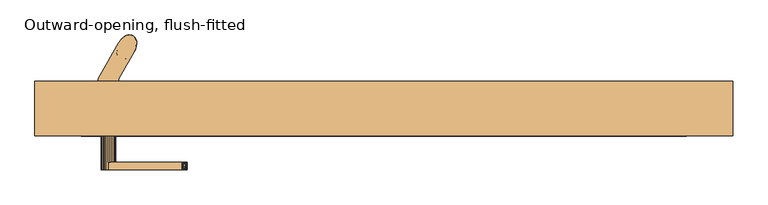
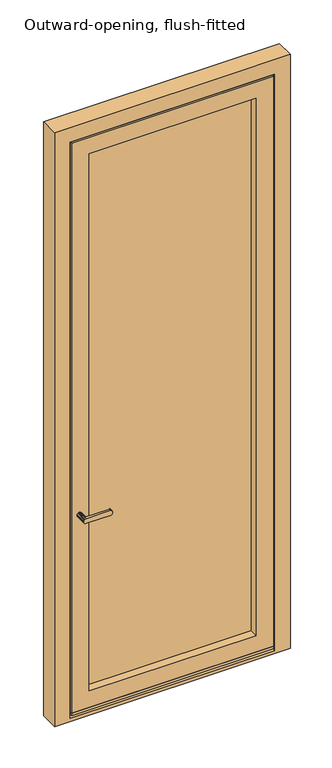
"""IFC4 building model written with IfcOpenShell, lengths in millimetres: door geometry, Outward-opening, flush-fitted."""

from ifc_helpers import new_model, si_unit, frame, origin, place, context, project, spatial, polyline, outline, extrude, faceted_brep, source, transform, mapped, element, save


def outward_opening_flush_fitted_a68b9a5d(model_context):
    return source(origin(), model_context, "Body", "SolidModel", [
        faceted_brep([(166.2287431, 669.5957857, 3103.5), (164.3389959, 672.5301259, 3103.5), (161.7797595, 674.6325784, 3103.5), (158.6793647, 675.7977178, 3103.5), (155.1932781, 675.9671188, 3103.5), (151.4963068, 675.1322872, 3103.5), (147.7738322, 673.3350848, 3103.5), (144.212515, 670.6656309, 3103.5), (140.9909342, 667.257783, 3103.5), (138.2706335, 663.2824248, 3103.5), (136.1880202, 658.9388975, 3103.5), (134.847525, 654.4450036, 3103.5), (134.3163661, 650.0260857, 3103.5), (134.6211779, 645.9037268, 3103.5), (135.7466761, 642.2846393, 3103.5), (137.6364232, 639.3502991, 3103.5), (140.1956596, 637.2478466, 3103.5), (143.2960545, 636.0827073, 3103.5), (146.7821411, 635.9133062, 3103.5), (150.4791124, 636.7481378, 3103.5), (154.2015869, 638.5453402, 3103.5), (157.7629042, 641.2147941, 3103.5), (160.9844849, 644.622642, 3103.5), (163.7047856, 648.5980002, 3103.5), (165.787399, 652.9415275, 3103.5), (167.1278941, 657.4354214, 3103.5), (167.6590531, 661.8543393, 3103.5), (167.3542412, 665.9766982, 3103.5), (143.2960545, 636.0827073, 213.5), (140.1956596, 637.2478466, 213.5), (137.6364232, 639.3502991, 213.5), (135.7466761, 642.2846393, 213.5), (134.6211779, 645.9037268, 213.5), (134.3163661, 650.0260857, 213.5), (134.847525, 654.4450036, 213.5), (136.1880202, 658.9388975, 213.5), (138.2706335, 663.2824248, 213.5), (140.9909342, 667.257783, 213.5), (144.212515, 670.6656309, 213.5), (147.7738322, 673.3350848, 213.5), (151.4963068, 675.1322872, 213.5), (155.1932781, 675.9671188, 213.5), (158.6793647, 675.7977178, 213.5), (161.7797595, 674.6325784, 213.5), (164.3389959, 672.5301259, 213.5), (166.2287431, 669.5957857, 213.5), (167.3542412, 665.9766982, 213.5), (167.6590531, 661.8543393, 213.5), (167.1278941, 657.4354214, 213.5), (165.787399, 652.9415275, 213.5), (163.7047856, 648.5980002, 213.5), (160.9844849, 644.622642, 213.5), (157.7629042, 641.2147941, 213.5), (154.2015869, 638.5453402, 213.5), (150.4791124, 636.7481378, 213.5), (146.7821411, 635.9133062, 213.5), (161.5505327, 674.7609343, 3039.7612202), (166.8914925, 667.8611962, 306.3237695), (163.7047856, 648.5980002, 304.783489), (153.359707, 675.6737836, 3010.676228), (153.3597056, 675.6737832, 297.4293988), (160.2880417, 675.3371113, 368.0172447), (148.3270491, 673.6633417, 369.3240477), (154.7588212, 675.9198052, 446.6944318), (163.1357621, 673.6929778, 2948.98274), (167.6667239, 662.4975723, 2947.6759605), (166.4102335, 669.1834463, 2875.4794892), (160.6776836, 675.18144, 2387.972511), (148.9017358, 673.9813242, 2433.366327), (160.6178636, 675.2065607, 2478.1094389), (163.7047856, 648.5980002, 3012.216511), (138.2706335, 663.2824248, 3012.2165083), (138.2706335, 663.2824248, 304.7834861), (150.8898033, 674.90456, 2922.0327645), (163.7047856, 648.5980002, 396.066978), (167.4602757, 665.3375828, 394.9672499), (162.0055327, 674.4982397, 277.2387736), (151.4561806, 675.1179974, 1435.6433105), (138.2706335, 663.2824248, 1400.1853641), (138.2706335, 663.2824248, 1479.816978), (138.2706335, 663.2824248, 1491.4688502), (159.9396675, 675.4609039, 526.5775533), (164.8081191, 671.9617113, 459.8390978), (149.6664737, 674.3686784, 2789.8337304), (159.5116475, 675.5941609, 2731.5722903), (148.7394891, 673.8939051, 2701.4632106), (166.8914918, 667.8611986, 3019.5705949), (138.2706335, 663.2824248, 943.7679168), (149.4014936, 674.2390529, 991.9541054), (150.151651, 674.5934845, 898.1262183), (138.2706335, 663.2824248, 2920.9330166), (138.2706335, 663.2824248, 2746.1339542), (138.2706335, 663.2824248, 2829.649533), (138.2706335, 663.2824248, 2833.5334854), (165.4334472, 671.0659174, 753.748835), (167.6399826, 663.5037097, 806.8427277), (167.6350242, 661.2518328, 715.5592395), (162.242194, 674.3485788, 2283.8905959), (164.5130902, 672.3281065, 2186.2171541), (150.2373078, 674.6314948, 2242.6546305), (150.8405944, 674.8849811, 1613.8704529), (162.8658555, 673.9071638, 1569.1585234), (151.2516076, 675.0434335, 1517.9321883), (161.0807139, 675.0001544, 2567.4509478), (149.4657023, 674.2709086, 2612.1217017), (161.5316125, 674.771178, 2656.7924568), (162.8920938, 673.8869902, 938.4578574), (161.7797596, 674.6325784, 1035.0514496), (167.6658448, 662.2320884, 1881.8538044), (163.7047856, 648.5980002, 1926.524533), (163.7047856, 648.5980002, 1852.7188463), (163.7047856, 648.5980002, 1837.183022), (150.0919155, 674.5666791, 1085.9473652), (152.7306536, 675.517869, 1168.8726905), (162.9683453, 673.8275832, 1125.837811), (163.0582315, 673.7560369, 1300.8775569), (167.6579167, 663.0537925, 1256.4632408), (162.9145992, 673.8695777, 1212.7139165), (162.8658556, 673.9071638, 1658.5823811), (162.242194, 674.3485788, 1747.8415416), (167.6457586, 663.3830403, 1705.6035919), (167.6667916, 662.4091556, 2149.8783316), (163.7047856, 648.5980002, 2194.5490659), (163.7047856, 648.5980002, 2120.7433801), (163.7047856, 648.5980002, 2105.2075549), (149.1043514, 674.0879095, 1899.8226875), (148.892015, 673.9761385, 1808.0481216), (138.2706335, 663.2824248, 1852.7188509), (167.6635215, 662.8128215, 1527.5583067), (163.7047856, 648.5980002, 1569.158489), (163.7047856, 648.5980002, 1491.4688485), (163.7047856, 648.5980002, 1479.816978), (161.3249434, 674.879689, 1844.8045559), (167.6001313, 664.1083165, 1797.4267243), (148.8951268, 673.9777992, 2522.7801928), (158.643048, 675.8050118, 2868.0801076), (163.0013131, 673.8015344, 2802.6217509), (161.9622567, 674.5246154, 1475.3268617), (138.2706335, 663.2824248, 852.4844251), (163.7047856, 648.5980002, 1301.133956), (163.7047856, 648.5980002, 1217.6183797), (163.7047856, 648.5980002, 1211.7924451), (149.3907955, 674.2337175, 1718.7066128), (138.2706335, 663.2824248, 1763.3773394), (167.6424046, 663.4549077, 2418.8738478), (167.6411091, 663.481305, 2327.1169999), (150.6175468, 674.7941617, 1263.2601666), (138.2706335, 663.2824248, 1217.6183807), (138.2706335, 663.2824248, 1301.133956), (138.2706335, 663.2824248, 1308.9018724), (163.7047856, 648.5980002, 2373.2320879), (138.2706335, 663.2824248, 1582.7523363), (138.2706335, 663.2824248, 1658.5), (138.2706335, 663.2824248, 1674.035828), (167.6177046, 663.8747832, 1077.7802226), (167.6548964, 663.1502613, 1167.1147796), (167.6416963, 663.4694262, 1349.0545448), (167.5889892, 664.240021, 2510.1573349), (163.7047856, 648.5980002, 2464.5155769), (148.0975381, 673.5298181, 2076.0726483), (149.7553179, 674.4110552, 1991.6458261), (138.2706335, 663.2824248, 2031.4018738), (164.2771184, 672.5995764, 682.8588012), (163.7047856, 648.5980002, 578.633956), (167.5907742, 664.219614, 532.9922607), (167.654249, 663.1692553, 621.3637247), (167.606449, 664.0285127, 2607.3749737), (162.0238637, 674.4869765, 1390.4755053), (167.5716901, 664.4263296, 1441.7482187), (167.6141573, 660.907579, 460.8624964), (163.7047856, 648.5980002, 487.350467), (148.6692217, 673.8554716, 511.4648929), (145.0393531, 671.3765494, 453.7451278), (162.7289495, 674.0102415, 603.806908), (163.7047856, 648.5980002, 669.9174451), (161.7797594, 674.6325785, 841.8642654), (167.6627677, 662.8535427, 898.126215), (151.6352708, 675.1809238, 659.1547405), (146.5604194, 672.5368909, 806.8427306), (148.3650685, 673.6850987, 2856.6324745), (152.3201144, 675.4012707, 583.1880996), (138.2706335, 663.2824248, 2656.7924427), (138.2706335, 663.2824248, 2738.366044), (167.5793103, 664.3466495, 2699.940621), (167.3048978, 658.3587256, 2866.1656853), (167.6644733, 662.7539259, 2807.3986574), (138.2706335, 663.2824248, 2567.4509313), (138.2706335, 663.2824248, 2647.0825549), (138.2706335, 663.2824248, 2388.767914), (138.2706335, 663.2824248, 2464.5155769), (138.2706335, 663.2824248, 2478.1094254), (149.7487472, 674.4079398, 2334.4675158), (138.2706335, 663.2824248, 2210.0848967), (138.2706335, 663.2824248, 2283.8905769), (138.2706335, 663.2824248, 2299.4264025), (163.7047856, 648.5980002, 2388.7679138), (163.7047856, 648.5980002, 2555.7990659), (163.7047856, 648.5980002, 2478.1094232), (163.7047856, 648.5980002, 2738.366044), (163.7047856, 648.5980002, 2656.7924475), (163.7047856, 648.5980002, 2647.0825549), (167.6079117, 664.0094265, 2235.3144708), (163.7047856, 648.5980002, 2283.8905769), (164.97877, 671.7345832, 2121.0154935), (138.2706335, 663.2824248, 578.6339612), (146.315966, 672.3627096, 2165.4141571), (138.2706335, 663.2824248, 2120.7433852), (138.2706335, 663.2824248, 2194.5490659), (166.7270112, 668.3594205, 2060.5368228), (163.7047856, 648.5980002, 2031.4018707), (163.7047856, 648.5980002, 2015.866044), (167.6288113, 663.7039869, 1971.1953135), (159.0289094, 675.7208451, 2041.9850456), (138.2706335, 663.2824248, 2555.7990659), (163.7047856, 648.5980002, 2210.0848951), (163.7047856, 648.5980002, 2299.4264044), (163.7047856, 648.5980002, 1033.1094231), (167.6548734, 663.1509445, 988.4387133), (163.7047856, 648.5980002, 2567.4509325), (138.2706335, 663.2824248, 396.0669778), (163.7047856, 648.5980002, 2829.649533), (163.7047856, 648.5980002, 2920.933022), (163.7047856, 648.5980002, 2746.1339569), (163.7047856, 648.5980002, 761.2009341), (157.3649733, 675.9831179, 2138.6482318), (145.791106, 671.9730561, 719.6075288), (138.2706335, 663.2824248, 669.9174529), (155.525878, 675.9937381, 754.3114731), (138.2706335, 663.2824248, 761.200939), (163.7047856, 648.5980002, 852.4844231), (163.7047856, 648.5980002, 943.7679121), (138.2706335, 663.2824248, 1035.0514085), (138.2706335, 663.2824248, 1126.3348946), (138.2706335, 663.2824248, 1211.7924451), (149.2249952, 674.1500152, 1354.5436536), (138.2706335, 663.2824248, 1390.475467), (163.7047856, 648.5980002, 1122.4509341), (163.7047856, 648.5980002, 1035.0514006), (138.2706335, 663.2824248, 1122.4509341), (138.2706335, 663.2824248, 1033.1094231), (163.7047856, 648.5980002, 1126.3348901), (163.7047856, 648.5980002, 1400.1853589), (163.7047856, 648.5980002, 1390.475467), (167.6552285, 663.1403125, 1613.8292772), (163.7047856, 648.5980002, 1308.9018693), (163.7047856, 648.5980002, 1658.5), (163.7047856, 648.5980002, 1582.752338), (163.7047856, 648.5980002, 1763.377337), (163.7047856, 648.5980002, 1747.841511), (138.2706335, 663.2824248, 1569.158489), (163.7047856, 648.5980002, 1942.0603613), (138.2706335, 663.2824248, 1747.841511), (161.3025915, 674.891059, 1942.0603856), (138.2706335, 663.2824248, 1837.183022), (138.2706335, 663.2824248, 1942.0603623), (138.2706335, 663.2824248, 2105.2075549), (163.7047856, 648.5980002, 1674.0358276), (138.2706335, 663.2824248, 2015.866044), (138.2706335, 663.2824248, 1926.524533), (138.2706335, 663.2824248, 487.3504695), (138.2706335, 663.2824248, 2373.2320879), (163.7047856, 648.5980002, 2833.5334917), (140.4248864, 637.1194907, 3039.7612202), (135.0839266, 644.0192288, 306.3237695), (148.6157121, 636.2066414, 3010.676228), (148.6157136, 636.2066418, 297.4293988), (141.6873774, 636.5433137, 368.0172447), (153.64837, 638.2170833, 369.3240477), (147.2165979, 635.9606198, 446.6944318), (138.839657, 638.1874472, 2948.98274), (134.3086953, 649.3828527, 2947.6759605), (135.5651856, 642.6969787, 2875.4794892), (141.2977356, 636.698985, 2387.972511), (153.0736833, 637.8991008, 2433.366327), (141.3575556, 636.6738643, 2478.1094389), (151.0856159, 636.975865, 2922.0327645), (134.5151434, 646.5428422, 394.9672499), (139.9698864, 637.3821853, 277.2387736), (150.5192386, 636.7624276, 1435.6433105), (142.0357516, 636.4195211, 526.5775533), (137.1673001, 639.9187137, 459.8390978), (152.3089454, 637.5117466, 2789.8337304), (142.4637716, 636.2862641, 2731.5722903), (153.23593, 637.9865199, 2701.4632106), (135.0839274, 644.0192264, 3019.5705949), (152.5739256, 637.6413721, 991.9541054), (151.8237681, 637.2869405, 898.1262183), (136.5419719, 640.8145076, 753.748835), (134.3354365, 648.3767153, 806.8427277), (134.3403949, 650.6285922, 715.5592395), (139.7332252, 637.5318462, 2283.8905959), (137.4623289, 639.5523186, 2186.2171541), (151.7381113, 637.2489302, 2242.6546305), (151.1348247, 636.9954439, 1613.8704529), (139.1095636, 637.9732612, 1569.1585234), (150.7238115, 636.8369915, 1517.9321883), (134.3689701, 647.8519123, 2607.3749737), (140.8947052, 636.8802706, 2567.4509478), (140.4438066, 637.109247, 2656.7924568), (139.0833253, 637.9934348, 938.4578574), (140.1956596, 637.2478466, 1035.0514496), (134.3095744, 649.6483366, 1881.8538044), (151.8835036, 637.3137459, 1085.9473652), (149.2447656, 636.362556, 1168.8726905), (139.0070739, 638.0528418, 1125.837811), (138.9171876, 638.1243881, 1300.8775569), (134.3175024, 648.8266325, 1256.4632408), (139.0608199, 638.0108473, 1212.7139165), (139.1095635, 637.9732612, 1658.5823811), (139.7332251, 637.5318462, 1747.8415416), (134.3296605, 648.4973847, 1705.6035919), (134.3086276, 649.4712695, 2149.8783316), (152.8710677, 637.7925155, 1899.8226875), (153.0834041, 637.9042865, 1808.0481216), (152.5097169, 637.6095164, 2612.1217017), (134.3118976, 649.0676035, 1527.5583067), (140.6504758, 637.000736, 1844.8045559), (134.3752878, 647.7721085, 1797.4267243), (153.0802924, 637.9026258, 2522.7801928), (143.3323712, 636.0754132, 2868.0801076), (138.9741061, 638.0788906, 2802.6217509), (140.0131624, 637.3558096, 1475.3268617), (152.5846237, 637.6467075, 1718.7066128), (134.3330145, 648.4255173, 2418.8738478), (134.3343101, 648.39912, 2327.1169999), (151.3578723, 637.0862633, 1263.2601666), (134.3577146, 648.0056418, 1077.7802226), (134.3205228, 648.7301637, 1167.1147796), (134.3337228, 648.4109988, 1349.0545448), (134.38643, 647.640404, 2510.1573349), (153.8778811, 638.3506069, 2076.0726483), (152.2201012, 637.4693698, 1991.6458261), (137.6983007, 639.2808486, 682.8588012), (134.3846449, 647.660811, 532.9922607), (134.3211702, 648.7111697, 621.3637247), (139.9515554, 637.3934485, 1390.4755053), (134.4037291, 647.4540954, 1441.7482187), (134.3612619, 650.972846, 460.8624964), (153.3061975, 638.0249534, 511.4648929), (156.936066, 640.5038756, 453.7451278), (139.2464696, 637.8701835, 603.806908), (140.1956597, 637.2478465, 841.8642654), (134.3126514, 649.0268823, 898.126215), (150.3401483, 636.6995012, 659.1547405), (155.4149997, 639.3435341, 806.8427306), (153.6103506, 638.1953263, 2856.6324745), (149.6553047, 636.4791543, 583.1880996), (134.3961088, 647.5337755, 2699.940621), (134.6705214, 653.5216994, 2866.1656853), (134.3109458, 649.1264991, 2807.3986574), (152.2266719, 637.4724852, 2334.4675158), (134.3675074, 647.8709985, 2235.3144708), (136.9966491, 640.1458418, 2121.0154935), (155.6594532, 639.5177154, 2165.4141571), (135.2484079, 643.5210045, 2060.5368228), (134.3466078, 648.1764381, 1971.1953135), (142.9465097, 636.1595799, 2041.9850456), (134.3205458, 648.7294805, 988.4387133), (144.6104458, 635.8973071, 2138.6482318), (156.1843131, 639.9073689, 719.6075288), (146.4495412, 635.8866869, 754.3114731), (152.750424, 637.7304098, 1354.5436536), (134.3201906, 648.7401125, 1613.8292772), (140.6728277, 636.989366, 1942.0603856)], [[[0, 1, 2, 3, 4, 5, 6, 7, 8, 9, 10, 11, 12, 13, 14, 15, 16, 17, 18, 19, 20, 21, 22, 23, 24, 25, 26, 27]], [[28, 29, 30, 31, 32, 33, 34, 35, 36, 37, 38, 39, 40, 41, 42, 43, 44, 45, 46, 47, 48, 49, 50, 51, 52, 53, 54, 55]], [[2, 1, 56]], [[57, 58, 48]], [[59, 7, 6]], [[5, 4, 59]], [[38, 60, 39]], [[61, 62, 63]], [[4, 3, 56]], [[64, 65, 66]], [[40, 60, 41]], [[67, 68, 69]], [[24, 23, 70]], [[58, 50, 49]], [[71, 9, 8]], [[37, 36, 72]], [[73, 59, 64]], [[60, 40, 39]], [[74, 58, 75]], [[45, 76, 57]], [[77, 78, 79, 80]], [[71, 8, 7]], [[63, 81, 82]], [[83, 84, 85]], [[25, 86, 26]], [[24, 70, 25]], [[87, 88, 89]], [[75, 58, 57]], [[72, 62, 60]], [[5, 59, 6]], [[90, 71, 73]], [[70, 65, 86]], [[42, 41, 76]], [[46, 57, 47]], [[83, 91, 92, 93]], [[94, 95, 96]], [[43, 42, 76]], [[97, 98, 99]], [[86, 27, 26]], [[100, 101, 102]], [[4, 56, 59]], [[64, 56, 86]], [[103, 104, 105]], [[46, 45, 57]], [[58, 49, 48]], [[76, 41, 60]], [[59, 71, 7]], [[45, 44, 76]], [[56, 1, 0]], [[75, 57, 61]], [[61, 76, 60]], [[27, 86, 0]], [[47, 57, 48]], [[37, 72, 38]], [[106, 88, 107]], [[0, 86, 56]], [[38, 72, 60]], [[73, 71, 59]], [[64, 86, 65]], [[61, 60, 62]], [[25, 70, 86]], [[108, 109, 110, 111]], [[112, 113, 114]], [[115, 116, 117]], [[118, 119, 120]], [[121, 122, 123, 124]], [[125, 126, 127]], [[105, 85, 84]], [[128, 129, 130, 131]], [[132, 133, 119]], [[134, 103, 69]], [[135, 66, 136]], [[137, 101, 128]], [[89, 138, 87]], [[116, 139, 140, 141]], [[126, 142, 143]], [[144, 145, 67]], [[146, 147, 148, 149]], [[150, 145, 144]], [[133, 120, 119]], [[100, 151, 152, 153]], [[154, 114, 155]], [[116, 115, 156]], [[144, 157, 158]], [[159, 160, 161]], [[96, 162, 94]], [[163, 164, 165]], [[68, 134, 69]], [[103, 166, 157]], [[100, 142, 118]], [[167, 168, 156]], [[169, 170, 74]], [[171, 63, 172]], [[163, 170, 164]], [[165, 164, 173]], [[174, 165, 96]], [[164, 169, 82]], [[82, 81, 164]], [[175, 176, 95]], [[177, 162, 173]], [[175, 178, 89]], [[179, 93, 90]], [[180, 177, 173]], [[85, 181, 182, 91]], [[105, 183, 166]], [[66, 184, 185]], [[91, 83, 85]], [[179, 135, 83]], [[135, 136, 83]], [[186, 104, 134]], [[104, 186, 187, 181]], [[103, 134, 104]], [[85, 104, 181]], [[104, 85, 105]], [[68, 188, 189, 190]], [[134, 68, 190]], [[188, 68, 191]], [[67, 191, 68]], [[99, 192, 193, 194]], [[191, 99, 194]], [[67, 97, 191]], [[144, 158, 195, 150]], [[166, 196, 157]], [[157, 196, 197, 158]], [[67, 69, 144]], [[183, 198, 199, 200]], [[166, 183, 200]], [[157, 144, 69]], [[97, 67, 145]], [[97, 145, 201]], [[145, 202, 201]], [[97, 99, 191]], [[121, 203, 98]], [[180, 204, 177]], [[205, 206, 207, 192]], [[208, 124, 209, 210]], [[122, 121, 201]], [[208, 211, 212]], [[134, 190, 213, 186]], [[69, 103, 157]], [[103, 105, 166]], [[201, 202, 214, 122]], [[145, 150, 215, 202]], [[201, 121, 98]], [[216, 217, 154]], [[155, 116, 141]], [[121, 124, 208]], [[73, 64, 135]], [[136, 183, 84]], [[166, 200, 218, 196]], [[171, 81, 63]], [[219, 62, 72]], [[75, 61, 82]], [[62, 172, 63]], [[171, 180, 81]], [[185, 184, 220]], [[221, 65, 70]], [[198, 183, 185]], [[65, 184, 66]], [[185, 136, 66]], [[136, 185, 183]], [[185, 220, 222, 198]], [[96, 223, 174]], [[162, 165, 173]], [[174, 163, 165]], [[192, 99, 205]], [[224, 99, 98]], [[63, 82, 61]], [[169, 75, 82]], [[225, 177, 226]], [[81, 173, 164]], [[177, 227, 162]], [[173, 81, 180]], [[226, 177, 204]], [[138, 178, 228]], [[227, 177, 225]], [[175, 89, 106]], [[225, 228, 178]], [[88, 106, 89]], [[229, 223, 95]], [[216, 230, 217]], [[176, 229, 95]], [[229, 176, 230]], [[94, 227, 175]], [[107, 88, 112]], [[88, 231, 112]], [[107, 112, 114]], [[113, 232, 233, 147]], [[117, 146, 115]], [[232, 113, 112]], [[234, 149, 235, 78]], [[236, 154, 155]], [[154, 236, 237, 216]], [[106, 107, 217]], [[154, 217, 107]], [[106, 217, 176]], [[230, 176, 217]], [[175, 106, 176]], [[112, 231, 238, 232]], [[88, 87, 239, 231]], [[117, 155, 114]], [[155, 141, 240, 236]], [[156, 139, 116]], [[117, 116, 155]], [[168, 131, 241, 242]], [[156, 168, 242]], [[128, 243, 129]], [[102, 101, 137]], [[115, 167, 156]], [[234, 167, 115]], [[113, 117, 114]], [[114, 154, 107]], [[156, 242, 244, 139]], [[245, 243, 120]], [[243, 245, 246, 129]], [[243, 101, 118]], [[133, 111, 247, 248]], [[120, 133, 248]], [[243, 118, 120]], [[101, 100, 118]], [[142, 119, 118]], [[100, 102, 151]], [[102, 80, 249, 151]], [[211, 210, 250, 109]], [[111, 133, 108]], [[132, 108, 133]], [[126, 125, 132]], [[142, 153, 251, 143]], [[210, 211, 208]], [[132, 252, 108]], [[126, 143, 253, 127]], [[153, 142, 100]], [[132, 119, 126]], [[149, 234, 146]], [[167, 137, 168]], [[78, 77, 234]], [[142, 126, 119]], [[252, 132, 125]], [[252, 125, 160]], [[125, 254, 160]], [[146, 234, 115]], [[77, 137, 167]], [[212, 211, 252]], [[159, 161, 255, 206]], [[113, 146, 117]], [[146, 113, 147]], [[243, 128, 101]], [[168, 128, 131]], [[120, 248, 256, 245]], [[160, 254, 257, 161]], [[125, 127, 258, 254]], [[259, 204, 171]], [[180, 171, 204]], [[259, 171, 172]], [[108, 211, 109]], [[252, 211, 108]], [[159, 224, 212]], [[160, 159, 212]], [[224, 159, 205]], [[160, 212, 252]], [[203, 208, 212]], [[128, 168, 137]], [[102, 137, 77]], [[80, 102, 77]], [[234, 77, 167]], [[191, 194, 260, 188]], [[66, 135, 64]], [[179, 73, 135]], [[73, 179, 90]], [[179, 83, 93]], [[223, 96, 95]], [[162, 96, 165]], [[75, 169, 74]], [[170, 169, 164]], [[95, 94, 175]], [[94, 162, 227]], [[201, 98, 97]], [[224, 98, 203]], [[224, 203, 212]], [[208, 203, 121]], [[227, 178, 175]], [[178, 138, 89]], [[206, 205, 159]], [[224, 205, 99]], [[172, 219, 259]], [[219, 172, 62]], [[184, 221, 261, 220]], [[221, 184, 65]], [[43, 76, 44]], [[57, 76, 61]], [[2, 56, 3]], [[59, 56, 64]], [[105, 84, 183]], [[136, 84, 83]], [[227, 225, 178]], [[228, 225, 226]], [[16, 15, 262]], [[263, 72, 34]], [[264, 21, 20]], [[19, 18, 264]], [[52, 265, 53]], [[266, 267, 268]], [[18, 17, 262]], [[269, 270, 271]], [[54, 265, 55]], [[272, 273, 274]], [[10, 9, 71]], [[72, 36, 35]], [[70, 23, 22]], [[51, 50, 58]], [[275, 264, 269]], [[265, 54, 53]], [[219, 72, 276]], [[31, 277, 263]], [[278, 241, 131, 130]], [[70, 22, 21]], [[268, 279, 280]], [[281, 282, 283]], [[11, 284, 12]], [[10, 71, 11]], [[230, 285, 286]], [[276, 72, 263]], [[58, 267, 265]], [[19, 264, 20]], [[221, 70, 275]], [[71, 270, 284]], [[28, 55, 277]], [[32, 263, 33]], [[281, 222, 220, 261]], [[287, 288, 289]], [[29, 28, 277]], [[290, 291, 292]], [[284, 13, 12]], [[293, 294, 295]], [[18, 262, 264]], [[269, 262, 284]], [[296, 297, 298]], [[32, 31, 263]], [[72, 35, 34]], [[277, 55, 265]], [[264, 70, 21]], [[31, 30, 277]], [[262, 15, 14]], [[276, 263, 266]], [[266, 277, 265]], [[13, 284, 14]], [[33, 263, 34]], [[51, 58, 52]], [[299, 285, 300]], [[14, 284, 262]], [[52, 58, 265]], [[275, 70, 264]], [[269, 284, 270]], [[266, 265, 267]], [[11, 71, 284]], [[301, 258, 127, 253]], [[302, 303, 304]], [[305, 306, 307]], [[308, 309, 310]], [[311, 207, 206, 255]], [[312, 313, 110]], [[298, 297, 314]], [[315, 249, 80, 79]], [[316, 317, 309]], [[318, 273, 197]], [[319, 271, 320]], [[321, 294, 315]], [[286, 229, 230]], [[306, 148, 147, 233]], [[313, 322, 247]], [[323, 324, 272]], [[325, 140, 139, 244]], [[260, 324, 323]], [[317, 310, 309]], [[293, 246, 245, 256]], [[326, 304, 327]], [[306, 305, 328]], [[323, 329, 189]], [[330, 331, 209]], [[289, 332, 287]], [[204, 333, 334]], [[273, 318, 274]], [[297, 296, 329]], [[293, 322, 308]], [[335, 336, 328]], [[337, 259, 219]], [[338, 268, 339]], [[204, 259, 333]], [[334, 333, 340]], [[226, 334, 289]], [[333, 337, 280]], [[280, 279, 333]], [[341, 342, 288]], [[343, 332, 340]], [[341, 344, 286]], [[345, 261, 221]], [[346, 343, 340]], [[283, 199, 198, 222]], [[298, 347, 296]], [[271, 348, 349]], [[222, 281, 283]], [[345, 319, 281]], [[319, 320, 281]], [[218, 314, 318]], [[314, 218, 200, 199]], [[283, 282, 298]], [[283, 314, 199]], [[314, 283, 298]], [[273, 195, 158, 197]], [[274, 318, 297]], [[195, 273, 350]], [[272, 350, 273]], [[292, 214, 202, 215]], [[350, 292, 215]], [[272, 290, 350]], [[323, 189, 188, 260]], [[296, 213, 329]], [[329, 213, 190, 189]], [[272, 274, 323]], [[347, 182, 181, 187]], [[296, 347, 187]], [[329, 323, 274]], [[290, 272, 324]], [[290, 324, 351]], [[324, 193, 351]], [[290, 292, 350]], [[311, 352, 291]], [[346, 163, 343]], [[353, 123, 122, 214]], [[354, 255, 161, 257]], [[207, 311, 351]], [[354, 355, 356]], [[318, 197, 196, 218]], [[314, 297, 318]], [[329, 274, 297]], [[351, 193, 192, 207]], [[324, 260, 194, 193]], [[351, 311, 291]], [[239, 357, 326]], [[327, 306, 233]], [[311, 255, 354]], [[275, 269, 319]], [[320, 347, 282]], [[296, 187, 186, 213]], [[338, 279, 268]], [[74, 267, 58]], [[276, 266, 280]], [[267, 339, 268]], [[338, 346, 279]], [[349, 348, 92]], [[90, 270, 71]], [[182, 347, 349]], [[270, 348, 271]], [[349, 320, 271]], [[320, 349, 347]], [[349, 92, 91, 182]], [[289, 228, 226]], [[332, 334, 340]], [[226, 204, 334]], [[214, 292, 353]], [[358, 292, 291]], [[268, 280, 266]], [[337, 276, 280]], [[359, 343, 174]], [[279, 340, 333]], [[343, 360, 332]], [[340, 279, 346]], [[174, 343, 163]], [[229, 344, 223]], [[360, 343, 359]], [[341, 286, 299]], [[359, 223, 344]], [[285, 299, 286]], [[138, 228, 288]], [[239, 87, 357]], [[342, 138, 288]], [[138, 342, 87]], [[287, 360, 341]], [[300, 285, 302]], [[285, 237, 302]], [[300, 302, 304]], [[303, 240, 141, 140]], [[307, 325, 305]], [[240, 303, 302]], [[361, 244, 242, 241]], [[238, 326, 327]], [[326, 238, 231, 239]], [[299, 300, 357]], [[326, 357, 300]], [[299, 357, 342]], [[87, 342, 357]], [[341, 299, 342]], [[302, 237, 236, 240]], [[285, 230, 216, 237]], [[307, 327, 304]], [[327, 233, 232, 238]], [[328, 148, 306]], [[307, 306, 327]], [[336, 79, 78, 235]], [[328, 336, 235]], [[315, 362, 249]], [[295, 294, 321]], [[305, 335, 328]], [[361, 335, 305]], [[303, 307, 304]], [[304, 326, 300]], [[328, 235, 149, 148]], [[152, 362, 310]], [[362, 152, 151, 249]], [[362, 294, 308]], [[317, 253, 143, 251]], [[310, 317, 251]], [[362, 308, 310]], [[294, 293, 308]], [[322, 309, 308]], [[293, 295, 246]], [[295, 130, 129, 246]], [[355, 257, 254, 258]], [[253, 317, 301]], [[316, 301, 317]], [[313, 312, 316]], [[322, 256, 248, 247]], [[257, 355, 354]], [[316, 363, 301]], [[313, 247, 111, 110]], [[256, 322, 293]], [[316, 309, 313]], [[244, 361, 325]], [[335, 321, 336]], [[241, 278, 361]], [[322, 313, 309]], [[363, 316, 312]], [[363, 312, 331]], [[312, 250, 331]], [[325, 361, 305]], [[278, 321, 335]], [[356, 355, 363]], [[330, 209, 124, 123]], [[303, 325, 307]], [[325, 303, 140]], [[362, 315, 294]], [[336, 315, 79]], [[310, 251, 153, 152]], [[331, 250, 210, 209]], [[312, 110, 109, 250]], [[170, 163, 338]], [[346, 338, 163]], [[170, 338, 339]], [[301, 355, 258]], [[363, 355, 301]], [[330, 358, 356]], [[331, 330, 356]], [[358, 330, 353]], [[331, 356, 363]], [[352, 354, 356]], [[315, 336, 321]], [[295, 321, 278]], [[130, 295, 278]], [[361, 278, 335]], [[350, 215, 150, 195]], [[271, 319, 269]], [[345, 275, 319]], [[275, 345, 221]], [[345, 281, 261]], [[228, 289, 288]], [[332, 289, 334]], [[276, 337, 219]], [[259, 337, 333]], [[288, 287, 341]], [[287, 332, 360]], [[351, 291, 290]], [[358, 291, 352]], [[358, 352, 356]], [[354, 352, 311]], [[360, 344, 341]], [[344, 229, 286]], [[123, 353, 330]], [[358, 353, 292]], [[339, 74, 170]], [[74, 339, 267]], [[348, 90, 93, 92]], [[90, 348, 270]], [[29, 277, 30]], [[263, 277, 266]], [[16, 262, 17]], [[264, 262, 269]], [[298, 282, 347]], [[320, 282, 281]], [[360, 359, 344]], [[223, 359, 174]]]),
        faceted_brep([(1074.0000003, 510.0, 3134.0), (1074.0000003, 518.3, 3134.0), (1074.0000003, 518.3, 167.8651688), (1074.0000003, 510.0, 165.0072496), (76.0, 518.3, 3134.0), (76.0, 518.3, 167.8651688), (55.5, 518.3, 167.8651688), (55.5, 518.3, 3154.5), (1094.5000003, 518.3, 3154.5), (1094.5000003, 518.3, 167.8651688), (1094.5000003, 591.7, 3154.5), (1094.5000003, 591.7, 164.3), (1094.5000003, 532.0, 164.3), (1094.5000003, 532.0, 170.0), (1094.5000003, 524.5, 170.0), (1106.0000003, 599.9993365, 150.0), (1106.0000003, 591.7, 150.0), (1106.0000003, 591.7, 3166.0), (1106.0000003, 599.9993365, 3166.0), (1150.0, 599.9993365, 150.0), (44.0, 599.9993365, 3166.0), (44.0, 599.9993365, 150.0), (0.0, 599.9993365, 150.0), (0.0, 599.9993365, 3210.0), (1150.0, 599.9993365, 3210.0), (76.0, 510.0, 3134.0), (76.0, 510.0, 165.0072496), (44.0, 591.7, 3166.0), (44.0, 591.7, 150.0), (55.5, 591.7, 3154.5), (55.5, 524.5, 170.0), (55.5, 532.0, 170.0), (55.5, 532.0, 164.3), (55.5, 591.7, 164.3), (0.0, 510.0, 3210.0), (1150.0, 510.0, 3210.0), (1150.0, 510.0, 150.0), (0.0, 510.0, 150.0)], [[[0, 1, 2, 3]], [[1, 4, 5, 6, 7, 8, 9, 2]], [[8, 10, 11, 12, 13, 14, 9]], [[15, 16, 17, 18]], [[19, 15, 18, 20, 21, 22, 23, 24]], [[4, 25, 26, 5]], [[20, 27, 28, 21]], [[29, 7, 6, 30, 31, 32, 33]], [[25, 4, 1, 0]], [[27, 20, 18, 17]], [[23, 34, 35, 24]], [[29, 10, 8, 7]], [[19, 24, 35, 36]], [[34, 23, 22, 37]], [[37, 36, 35, 34], [3, 26, 25, 0]], [[19, 36, 37, 22, 21, 28, 16, 15]], [[14, 30, 6, 5, 26, 3, 2, 9]], [[16, 28, 27, 17], [33, 11, 10, 29]], [[11, 33, 32, 12]], [[12, 32, 31, 13]], [[13, 31, 30, 14]]]),
        extrude(outline(polyline([(153.0, 589.0), (997.0000003, 589.0), (997.0000003, 551.0), (153.0, 551.0), (153.0, 589.0)])), frame((0.0, 0.0, 260.0), z_axis=(0.0, 0.0, 1.0), x_axis=(1.0, 0.0, 0.0)), (0.0, 0.0, 1.0), 2797.0),
        faceted_brep([(71.5, 518.3, 3138.5), (71.5, 591.7, 3138.5), (71.5, 591.7, 178.5), (71.5, 518.3, 178.5), (51.0, 591.7, 3159.0), (51.0, 591.7, 158.0), (1099.0000003, 591.7, 158.0), (1099.0000003, 591.7, 3159.0), (1078.5000003, 591.7, 3138.5), (1078.5000003, 591.7, 178.5), (1078.5000003, 518.3, 178.5), (1078.5000003, 518.3, 3138.5), (1067.0000003, 518.3, 3127.0), (1067.0000003, 518.3, 190.0), (83.0, 518.3, 190.0), (83.0, 518.3, 3127.0), (83.0, 510.0, 3127.0), (83.0, 510.0, 190.0), (1067.0000003, 510.0, 190.0), (1067.0000003, 510.0, 3127.0), (981.9999698, 510.0, 3041.9999695), (981.9999698, 510.0, 275.0000305), (168.0000305, 510.0, 275.0000305), (168.0000305, 510.0, 3041.9999695), (168.0000305, 551.0, 3041.9999695), (168.0000305, 551.0, 275.0000305), (981.9999698, 551.0, 275.0000305), (997.0000003, 551.0, 3057.0), (997.0000003, 551.0, 260.0), (153.0, 551.0, 260.0), (153.0, 551.0, 3057.0), (981.9999698, 551.0, 3041.9999695), (153.0, 589.0, 3057.0), (153.0, 589.0, 260.0), (997.0000003, 589.0, 260.0), (997.0000003, 589.0, 3057.0), (980.0, 589.0, 3040.0), (980.0, 589.0, 277.0), (170.0, 589.0, 277.0), (170.0, 589.0, 3040.0), (170.0, 600.0, 3040.0), (170.0, 600.0, 277.0), (980.0, 600.0, 277.0), (1099.0000003, 600.0, 3159.0), (1099.0000003, 600.0, 158.0), (51.0, 600.0, 158.0), (51.0, 600.0, 3159.0), (980.0, 600.0, 3040.0)], [[[0, 1, 2, 3]], [[4, 5, 6, 7], [8, 9, 2, 1]], [[3, 2, 9, 10]], [[0, 3, 10, 11], [12, 13, 14, 15]], [[16, 15, 14, 17]], [[17, 14, 13, 18]], [[16, 17, 18, 19], [20, 21, 22, 23]], [[24, 23, 22, 25]], [[25, 22, 21, 26]], [[27, 28, 29, 30], [24, 25, 26, 31]], [[32, 30, 29, 33]], [[33, 29, 28, 34]], [[32, 33, 34, 35], [36, 37, 38, 39]], [[40, 39, 38, 41]], [[41, 38, 37, 42]], [[43, 44, 45, 46], [40, 41, 42, 47]], [[4, 46, 45, 5]], [[5, 45, 44, 6]], [[10, 9, 8, 11]], [[18, 13, 12, 19]], [[26, 21, 20, 31]], [[34, 28, 27, 35]], [[42, 37, 36, 47]], [[6, 44, 43, 7]], [[11, 8, 1, 0]], [[19, 12, 15, 16]], [[31, 20, 23, 24]], [[35, 27, 30, 32]], [[47, 36, 39, 40]], [[7, 43, 46, 4]]]),
        faceted_brep([(137.9561005, 600.0, 243.5), (137.9561005, 604.0, 243.5), (104.0438995, 604.0, 243.5), (104.0438995, 600.0, 243.5), (137.9561005, 604.0, 213.5), (104.0438995, 604.0, 213.5), (137.9561005, 600.0, 209.5), (137.9561005, 604.0, 209.5), (104.0438995, 600.0, 209.5), (104.0438995, 604.0, 209.5), (164.3389949, 672.5301271, 213.5), (161.7797579, 674.6325794, 213.5), (158.6793625, 675.7977182, 213.5), (155.1932755, 675.9671186, 213.5), (151.4963038, 675.1322861, 213.5), (147.773829, 673.3350828, 213.5), (144.2125117, 670.6656279, 213.5), (140.9909311, 667.2577791, 213.5), (138.2706308, 663.2824201, 213.5), (163.7047856, 648.5980002, 213.5), (165.7873991, 652.9415279, 213.5), (167.1278943, 657.4354221, 213.5), (167.6590531, 661.8543403, 213.5), (167.354241, 665.9766994, 213.5), (166.2287425, 669.5957871, 213.5), (138.2706308, 663.2824201, 209.5), (140.9909311, 667.2577791, 209.5), (144.2125117, 670.6656279, 209.5), (147.773829, 673.3350828, 209.5), (151.4963038, 675.1322861, 209.5), (155.1932755, 675.9671186, 209.5), (158.6793625, 675.7977182, 209.5), (161.7797579, 674.6325794, 209.5), (164.3389949, 672.5301271, 209.5), (166.2287425, 669.5957871, 209.5), (167.354241, 665.9766994, 209.5), (167.6590531, 661.8543403, 209.5), (167.1278943, 657.4354221, 209.5), (165.7873991, 652.9415279, 209.5), (163.7047856, 648.5980002, 209.5), (138.2706308, 663.2824201, 211.9099144), (163.7047856, 648.5980002, 211.0900853), (165.3743289, 671.1586471, 211.5), (153.3597053, 675.6737832, 211.5), (167.6445577, 661.4468941, 211.5)], [[[0, 1, 2, 3]], [[4, 5, 2, 1]], [[6, 7, 4, 1, 0]], [[8, 6, 0, 3]], [[9, 8, 3, 2, 5]], [[10, 11, 12, 13, 14, 15, 16, 17, 18, 5, 4, 19, 20, 21, 22, 23, 24]], [[6, 8, 9, 25, 26, 27, 28, 29, 30, 31, 32, 33, 34, 35, 36, 37, 38, 39, 7]], [[9, 5, 18, 40, 25]], [[7, 39, 41, 19, 4]], [[40, 18, 17]], [[26, 25, 40]], [[24, 42, 10]], [[43, 27, 40]], [[40, 27, 26]], [[43, 30, 29]], [[15, 43, 16]], [[13, 43, 14]], [[32, 31, 43]], [[41, 39, 38]], [[20, 19, 41]], [[28, 43, 29]], [[17, 16, 40]], [[31, 30, 43]], [[35, 34, 42]], [[28, 27, 43]], [[20, 41, 44]], [[15, 14, 43]], [[13, 12, 43]], [[40, 16, 43]], [[11, 43, 12]], [[32, 43, 42]], [[34, 33, 42]], [[35, 44, 36]], [[38, 37, 41]], [[37, 44, 41]], [[36, 44, 37]], [[44, 21, 20]], [[42, 43, 11]], [[32, 42, 33]], [[42, 11, 10]], [[23, 42, 24]], [[44, 42, 23]], [[35, 42, 44]], [[23, 22, 44]], [[22, 21, 44]]]),
        faceted_brep([(104.0438995, 600.0, 3073.5), (104.0438995, 604.0, 3073.5), (137.9561005, 604.0, 3073.5), (137.9561005, 600.0, 3073.5), (104.0438995, 604.0, 3103.5), (137.9561005, 604.0, 3103.5), (137.9561005, 604.0, 3107.5), (137.9561005, 600.0, 3107.5), (104.0438995, 600.0, 3107.5), (104.0438995, 604.0, 3107.5), (138.2706335, 663.2824248, 3103.5), (140.9909342, 667.257783, 3103.5), (144.212515, 670.6656309, 3103.5), (147.7738322, 673.3350848, 3103.5), (151.4963068, 675.1322872, 3103.5), (155.1932781, 675.9671188, 3103.5), (158.6793647, 675.7977178, 3103.5), (161.7797595, 674.6325784, 3103.5), (164.3389959, 672.5301259, 3103.5), (166.2287431, 669.5957857, 3103.5), (167.3542412, 665.9766982, 3103.5), (167.6590531, 661.8543393, 3103.5), (167.1278941, 657.4354214, 3103.5), (165.787399, 652.9415275, 3103.5), (163.7047856, 648.5980002, 3103.5), (164.3389959, 672.5301259, 3107.5), (161.7797595, 674.6325784, 3107.5), (158.6793647, 675.7977178, 3107.5), (155.1932781, 675.9671188, 3107.5), (151.4963068, 675.1322872, 3107.5), (147.7738322, 673.3350848, 3107.5), (144.212515, 670.6656309, 3107.5), (140.9909342, 667.257783, 3107.5), (138.2706335, 663.2824248, 3107.5), (163.7047856, 648.5980002, 3107.5), (165.787399, 652.9415275, 3107.5), (167.1278941, 657.4354214, 3107.5), (167.6590531, 661.8543393, 3107.5), (167.3542412, 665.9766982, 3107.5), (166.2287431, 669.5957857, 3107.5), (138.2706335, 663.2824248, 3105.9099144), (163.7047856, 648.5980002, 3105.0900854), (165.3743297, 671.1586458, 3105.5), (153.3597081, 675.6737838, 3105.5), (167.6445577, 661.4468931, 3105.5)], [[[0, 1, 2, 3]], [[2, 1, 4, 5]], [[3, 2, 5, 6, 7]], [[0, 3, 7, 8]], [[1, 0, 8, 9, 4]], [[5, 4, 10, 11, 12, 13, 14, 15, 16, 17, 18, 19, 20, 21, 22, 23, 24]], [[25, 26, 27, 28, 29, 30, 31, 32, 33, 9, 8, 7, 6, 34, 35, 36, 37, 38, 39]], [[4, 9, 33, 40, 10]], [[5, 24, 41, 34, 6]], [[40, 33, 32]], [[11, 10, 40]], [[39, 42, 25]], [[43, 12, 40]], [[40, 12, 11]], [[43, 15, 14]], [[30, 43, 31]], [[28, 43, 29]], [[17, 16, 43]], [[41, 24, 23]], [[35, 34, 41]], [[13, 43, 14]], [[32, 31, 40]], [[16, 15, 43]], [[20, 19, 42]], [[13, 12, 43]], [[35, 41, 44]], [[30, 29, 43]], [[28, 27, 43]], [[40, 31, 43]], [[26, 43, 27]], [[17, 43, 42]], [[19, 18, 42]], [[20, 44, 21]], [[23, 22, 41]], [[22, 44, 41]], [[21, 44, 22]], [[44, 36, 35]], [[42, 43, 26]], [[17, 42, 18]], [[42, 26, 25]], [[38, 42, 39]], [[44, 42, 38]], [[20, 42, 44]], [[38, 37, 44]], [[37, 36, 44]]]),
        extrude(outline(polyline([(83.0, 510.0), (83.0, 518.3), (1067.0000003, 518.3), (1067.0000003, 510.0), (83.0, 510.0)])), frame((0.0, 0.0, 176.0), z_axis=(0.0, 0.0, 1.0), x_axis=(1.0, 0.0, 0.0)), (0.0, 0.0, 1.0), 14.0),
        faceted_brep([(112.5227579, 510.0, 1208.4772421), (115.0056846, 510.0, 1210.3824588), (117.897114, 510.0, 1211.5801281), (121.0, 510.0, 1211.9886308), (124.102886, 510.0, 1211.5801281), (126.9943154, 510.0, 1210.3824588), (129.4772421, 510.0, 1208.4772421), (131.3824588, 510.0, 1205.9943154), (132.5801281, 510.0, 1203.102886), (132.9886308, 510.0, 1200.0), (132.5801281, 510.0, 1196.897114), (131.3824588, 510.0, 1194.0056846), (129.4772421, 510.0, 1191.5227579), (126.9943154, 510.0, 1189.6175412), (124.102886, 510.0, 1188.4198719), (121.0, 510.0, 1188.0113692), (117.897114, 510.0, 1188.4198719), (115.0056846, 510.0, 1189.6175412), (112.5227579, 510.0, 1191.5227579), (110.6175412, 510.0, 1194.0056846), (109.4198719, 510.0, 1196.897114), (109.0113692, 510.0, 1200.0), (109.4198719, 510.0, 1203.102886), (110.6175412, 510.0, 1205.9943154), (124.102886, 466.5001175, 1188.4198719), (121.0, 466.5001175, 1188.0113692), (126.9943154, 466.5001175, 1189.6175412), (131.3824588, 466.5001175, 1194.0056846), (129.4772421, 466.5001175, 1191.5227579), (132.5801281, 466.5001175, 1196.897114), (132.9886308, 466.5001175, 1200.0), (132.5801281, 466.5001175, 1203.102886), (131.3824588, 466.5001175, 1205.9943154), (126.9943154, 466.5001175, 1210.3824588), (129.4772421, 466.5001175, 1208.4772421), (124.102886, 466.5001175, 1211.5801281), (121.0, 466.5001175, 1211.9886308), (117.897114, 454.0000305, 1211.5801281), (121.0, 454.0000305, 1211.9886308), (115.0056846, 454.0000305, 1210.3824588), (110.6175412, 454.0000305, 1205.9943154), (112.5227579, 454.0000305, 1208.4772421), (109.4198719, 454.0000305, 1203.102886), (109.0113692, 454.0000305, 1200.0), (109.4198719, 454.0000305, 1196.897114), (110.6175412, 454.0000305, 1194.0056846), (115.0056846, 454.0000305, 1189.6175412), (112.5227579, 454.0000305, 1191.5227579), (117.897114, 454.0000305, 1188.4198719), (121.0, 454.0000305, 1188.0113692), (242.6617926, 454.0000305, 1188.0113692), (244.2039971, 454.0000305, 1188.2417274), (245.6869356, 454.0000305, 1188.9239494), (247.0536195, 454.0000305, 1190.0318178), (248.2515279, 454.0000305, 1191.5227579), (249.234626, 454.0000305, 1193.3394736), (249.9651338, 454.0000305, 1195.4121496), (250.4149782, 454.0000305, 1197.6611342), (250.5668721, 454.0000305, 1200.0), (250.4149782, 454.0000305, 1202.3388658), (249.9651338, 454.0000305, 1204.5878504), (249.234626, 454.0000305, 1206.6605264), (248.2515279, 454.0000305, 1208.4772421), (247.0536195, 454.0000305, 1209.9681822), (245.6869356, 454.0000305, 1211.0760506), (244.2039971, 454.0000305, 1211.7582726), (242.6617926, 454.0000305, 1211.9886308), (249.9651338, 466.5001175, 1195.4121496), (249.234626, 466.5001175, 1193.3394736), (248.2515279, 466.5001175, 1191.5227579), (247.0536195, 466.5001175, 1190.0318178), (245.6869356, 466.5001175, 1188.9239494), (244.2039971, 466.5001175, 1188.2417274), (242.6617926, 466.5001175, 1188.0113692), (242.6617926, 466.5001175, 1211.9886308), (244.2039971, 466.5001175, 1211.7582726), (245.6869356, 466.5001175, 1211.0760506), (247.0536195, 466.5001175, 1209.9681822), (248.2515279, 466.5001175, 1208.4772421), (249.234626, 466.5001175, 1206.6605264), (249.9651338, 466.5001175, 1204.5878504), (250.4149782, 466.5001175, 1202.3388658), (250.5668721, 466.5001175, 1200.0), (250.4149782, 466.5001175, 1197.6611342), (242.6617926, 461.0756599, 1188.0113692), (246.3882212, 460.2500761, 1189.4269715), (248.7725017, 460.2500743, 1192.3944932), (250.226482, 460.250074, 1196.5198842), (249.6334503, 460.250074, 1205.6514014), (250.528807, 460.2500741, 1201.1750915), (244.9565161, 460.250074, 1211.4724044), (247.676722, 460.250074, 1209.2673369), (242.6617926, 460.250074, 1211.9886308)], [[[0, 1, 2, 3, 4, 5, 6, 7, 8, 9, 10, 11, 12, 13, 14, 15, 16, 17, 18, 19, 20, 21, 22, 23]], [[14, 24, 25, 15]], [[13, 26, 24, 14]], [[27, 28, 12, 11]], [[13, 12, 28, 26]], [[29, 27, 11, 10]], [[30, 29, 10, 9]], [[8, 31, 30, 9]], [[7, 32, 31, 8]], [[33, 34, 6, 5]], [[7, 6, 34, 32]], [[35, 33, 5, 4]], [[36, 35, 4, 3]], [[2, 37, 38, 36, 3]], [[1, 39, 37, 2]], [[23, 40, 41, 0]], [[1, 0, 41, 39]], [[22, 42, 40, 23]], [[21, 43, 42, 22]], [[20, 44, 43, 21]], [[19, 45, 44, 20]], [[17, 46, 47, 18]], [[19, 18, 47, 45]], [[16, 48, 46, 17]], [[25, 49, 48, 16, 15]], [[45, 47, 46, 48, 49, 50, 51, 52, 53, 54, 55, 56, 57, 58, 59, 60, 61, 62, 63, 64, 65, 66, 38, 37, 39, 41, 40, 42, 43, 44]], [[67, 68, 69, 70, 71, 72, 73, 25, 24, 26, 28, 27, 29, 30, 31, 32, 34, 33, 35, 36, 74, 75, 76, 77, 78, 79, 80, 81, 82, 83]], [[49, 25, 73, 84, 50]], [[85, 52, 51]], [[53, 85, 86]], [[67, 87, 68]], [[69, 86, 70]], [[80, 88, 81]], [[72, 85, 84]], [[57, 56, 87]], [[60, 59, 89]], [[86, 87, 56]], [[76, 90, 91, 77]], [[86, 55, 54]], [[79, 78, 91, 88]], [[58, 87, 89]], [[70, 85, 71]], [[84, 73, 72]], [[50, 84, 51]], [[85, 72, 71]], [[58, 57, 87]], [[52, 85, 53]], [[86, 56, 55]], [[86, 54, 53]], [[68, 86, 69]], [[86, 85, 70]], [[74, 92, 75]], [[92, 66, 65]], [[62, 61, 88, 91]], [[87, 86, 68]], [[85, 51, 84]], [[87, 67, 83]], [[91, 90, 64, 63]], [[89, 87, 83]], [[61, 60, 88]], [[89, 88, 60]], [[90, 65, 64]], [[63, 62, 91]], [[89, 83, 82]], [[81, 89, 82]], [[88, 89, 81]], [[79, 88, 80]], [[90, 92, 65]], [[78, 77, 91]], [[75, 90, 76]], [[75, 92, 90]], [[59, 58, 89]], [[38, 66, 92, 74, 36]]]),
    ])


if __name__ == "__main__":
    model = new_model("IFC4")
    model_context = context("Model", 3, world=origin())
    ifc_project = project(units=[si_unit("LENGTHUNIT", "METRE", prefix="MILLI")], contexts=[model_context])
    site = spatial("IfcSite", under=ifc_project)
    building = spatial("IfcBuilding", under=site)
    placement = place(None, origin())
    outward_opening_flush_fitted_shape = outward_opening_flush_fitted_a68b9a5d(model_context)
    element("IfcDoor", 1, ObjectType="Outward-opening, flush-fitted", at=placement, inside=building, context=model_context, shape_type="MappedRepresentation", body=[
        mapped(outward_opening_flush_fitted_shape, transform((0.0, 0.0, 0.0), x_axis=(1.0, 0.0, 0.0), y_axis=(0.0, 1.0, 0.0), z_axis=(0.0, 0.0, 1.0))),
    ])
    save(model, "model.ifc")
